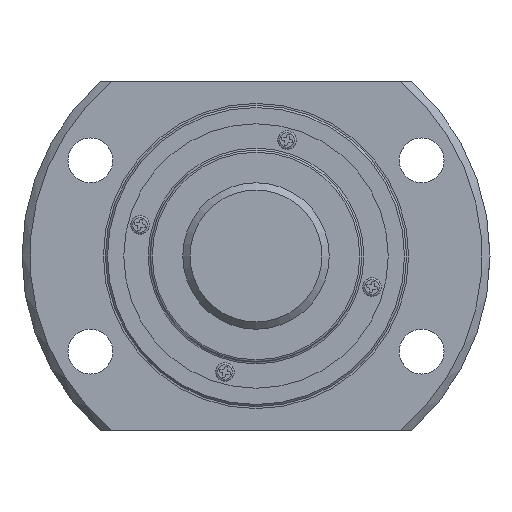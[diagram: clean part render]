
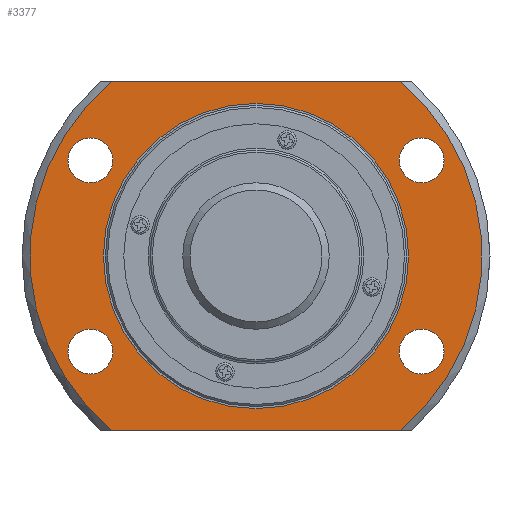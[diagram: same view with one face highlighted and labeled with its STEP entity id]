
A CAD part, left-side view. The second image highlights one B-rep face of the part: STEP entity #3377.
In plain terms, the highlighted planar face has unit normal (-1, 0, 0).
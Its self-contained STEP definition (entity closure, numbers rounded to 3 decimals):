
#37=LINE('',#5080,#365);
#38=LINE('',#5081,#366);
#365=VECTOR('',#4023,1000.);
#366=VECTOR('',#4024,1000.);
#721=PLANE('',#3628);
#887=ORIENTED_EDGE('',*,*,#1823,.T.);
#888=ORIENTED_EDGE('',*,*,#1824,.T.);
#889=ORIENTED_EDGE('',*,*,#1825,.T.);
#890=ORIENTED_EDGE('',*,*,#1826,.T.);
#891=ORIENTED_EDGE('',*,*,#1827,.T.);
#892=ORIENTED_EDGE('',*,*,#1818,.F.);
#893=ORIENTED_EDGE('',*,*,#1828,.T.);
#894=ORIENTED_EDGE('',*,*,#1821,.F.);
#895=ORIENTED_EDGE('',*,*,#1829,.T.);
#1818=EDGE_CURVE('',#2286,#2287,#2617,.T.);
#1821=EDGE_CURVE('',#2288,#2289,#2618,.T.);
#1823=EDGE_CURVE('',#2290,#2290,#2619,.T.);
#1824=EDGE_CURVE('',#2291,#2291,#2620,.T.);
#1825=EDGE_CURVE('',#2292,#2292,#2621,.T.);
#1826=EDGE_CURVE('',#2293,#2293,#2622,.T.);
#1827=EDGE_CURVE('',#2294,#2294,#2623,.T.);
#1828=EDGE_CURVE('',#2286,#2289,#37,.T.);
#1829=EDGE_CURVE('',#2288,#2287,#38,.T.);
#2286=VERTEX_POINT('',#5050);
#2287=VERTEX_POINT('',#5052);
#2288=VERTEX_POINT('',#5062);
#2289=VERTEX_POINT('',#5064);
#2290=VERTEX_POINT('',#5071);
#2291=VERTEX_POINT('',#5073);
#2292=VERTEX_POINT('',#5075);
#2293=VERTEX_POINT('',#5077);
#2294=VERTEX_POINT('',#5079);
#2617=CIRCLE('',#3625,55.583);
#2618=CIRCLE('',#3627,55.583);
#2619=CIRCLE('',#3629,37.5);
#2620=CIRCLE('',#3630,5.5);
#2621=CIRCLE('',#3631,5.5);
#2622=CIRCLE('',#3632,5.5);
#2623=CIRCLE('',#3633,5.5);
#2759=EDGE_LOOP('',(#887));
#2760=EDGE_LOOP('',(#888));
#2761=EDGE_LOOP('',(#889));
#2762=EDGE_LOOP('',(#890));
#2763=EDGE_LOOP('',(#891));
#2764=EDGE_LOOP('',(#892,#893,#894,#895));
#3043=FACE_BOUND('',#2759,.T.);
#3044=FACE_BOUND('',#2760,.T.);
#3045=FACE_BOUND('',#2761,.T.);
#3046=FACE_BOUND('',#2762,.T.);
#3047=FACE_BOUND('',#2763,.T.);
#3048=FACE_BOUND('',#2764,.T.);
#3377=ADVANCED_FACE('',(#3043,#3044,#3045,#3046,#3047,#3048),#721,.T.);
#3625=AXIS2_PLACEMENT_3D('',#5051,#4005,#4006);
#3627=AXIS2_PLACEMENT_3D('',#5063,#4009,#4010);
#3628=AXIS2_PLACEMENT_3D('',#5069,#4011,#4012);
#3629=AXIS2_PLACEMENT_3D('',#5070,#4013,#4014);
#3630=AXIS2_PLACEMENT_3D('',#5072,#4015,#4016);
#3631=AXIS2_PLACEMENT_3D('',#5074,#4017,#4018);
#3632=AXIS2_PLACEMENT_3D('',#5076,#4019,#4020);
#3633=AXIS2_PLACEMENT_3D('',#5078,#4021,#4022);
#4005=DIRECTION('',(1.,0.,0.));
#4006=DIRECTION('',(0.,0.,-1.));
#4009=DIRECTION('',(1.,0.,0.));
#4010=DIRECTION('',(0.,0.,-1.));
#4011=DIRECTION('',(-1.,0.,0.));
#4012=DIRECTION('',(0.,0.,1.));
#4013=DIRECTION('',(1.,0.,0.));
#4014=DIRECTION('',(0.,0.,-1.));
#4015=DIRECTION('',(1.,0.,0.));
#4016=DIRECTION('',(0.,0.,-1.));
#4017=DIRECTION('',(1.,0.,0.));
#4018=DIRECTION('',(0.,0.,-1.));
#4019=DIRECTION('',(1.,0.,0.));
#4020=DIRECTION('',(0.,0.,-1.));
#4021=DIRECTION('',(1.,0.,0.));
#4022=DIRECTION('',(0.,0.,-1.));
#4023=DIRECTION('',(0.,1.,0.));
#4024=DIRECTION('',(0.,-1.,0.));
#5050=CARTESIAN_POINT('',(17.,-35.221,43.));
#5051=CARTESIAN_POINT('',(17.,0.,0.));
#5052=CARTESIAN_POINT('',(17.,-35.221,-43.));
#5062=CARTESIAN_POINT('',(17.,35.221,-43.));
#5063=CARTESIAN_POINT('',(17.,0.,0.));
#5064=CARTESIAN_POINT('',(17.,35.221,43.));
#5069=CARTESIAN_POINT('',(17.,55.583,0.));
#5070=CARTESIAN_POINT('',(17.,0.,0.));
#5071=CARTESIAN_POINT('',(17.,0.,-37.5));
#5072=CARTESIAN_POINT('',(17.,-40.703,23.5));
#5073=CARTESIAN_POINT('',(17.,-40.703,18.));
#5074=CARTESIAN_POINT('',(17.,40.703,-23.5));
#5075=CARTESIAN_POINT('',(17.,40.703,-29.));
#5076=CARTESIAN_POINT('',(17.,-40.703,-23.5));
#5077=CARTESIAN_POINT('',(17.,-40.703,-29.));
#5078=CARTESIAN_POINT('',(17.,40.703,23.5));
#5079=CARTESIAN_POINT('',(17.,40.703,18.));
#5080=CARTESIAN_POINT('',(17.,55.583,43.));
#5081=CARTESIAN_POINT('',(17.,55.583,-43.));
